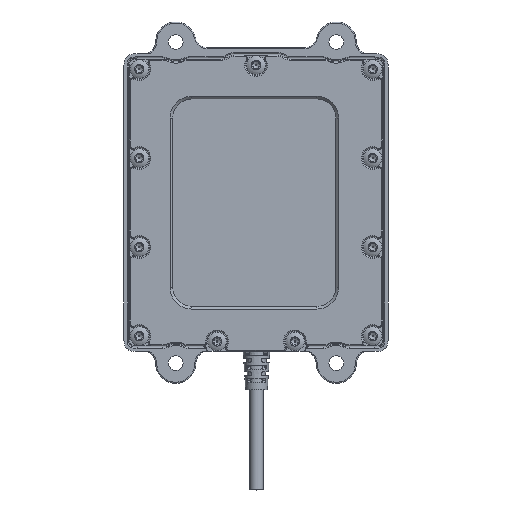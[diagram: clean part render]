
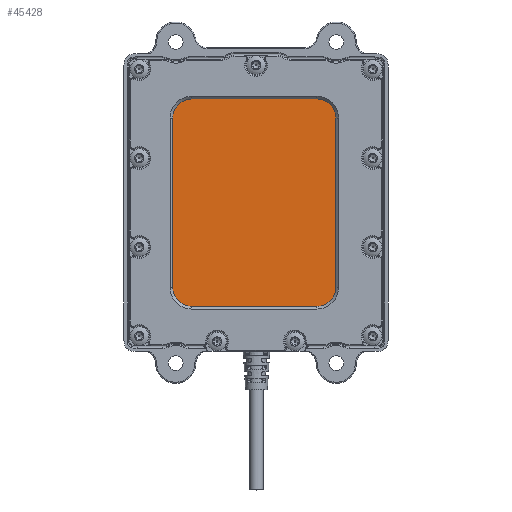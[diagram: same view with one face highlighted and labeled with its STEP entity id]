
A CAD part, top view. The second image highlights one B-rep face of the part: STEP entity #45428.
In plain terms, the highlighted planar face has unit normal (0, 0, 1).
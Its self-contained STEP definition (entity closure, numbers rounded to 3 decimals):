
#45238 = VERTEX_POINT('',#45239);
#45239 = CARTESIAN_POINT('',(18.204,-31.,-0.8));
#45245 = EDGE_CURVE('',#45246,#45238,#45248,.T.);
#45246 = VERTEX_POINT('',#45247);
#45247 = CARTESIAN_POINT('',(-19.204,-31.,-0.8));
#45248 = LINE('',#45249,#45250);
#45249 = CARTESIAN_POINT('',(18.204,-31.,-0.8));
#45250 = VECTOR('',#45251,1.);
#45251 = DIRECTION('',(1.,0.,0.));
#45268 = VERTEX_POINT('',#45269);
#45269 = CARTESIAN_POINT('',(-24.904,-25.3,-0.8));
#45275 = EDGE_CURVE('',#45268,#45246,#45276,.T.);
#45276 = CIRCLE('',#45277,5.7);
#45277 = AXIS2_PLACEMENT_3D('',#45278,#45279,#45280);
#45278 = CARTESIAN_POINT('',(-19.204,-25.3,-0.8));
#45279 = DIRECTION('',(-0.,0.,1.));
#45280 = DIRECTION('',(1.,0.,0.));
#45294 = EDGE_CURVE('',#45295,#45268,#45297,.T.);
#45295 = VERTEX_POINT('',#45296);
#45296 = CARTESIAN_POINT('',(-24.904,25.3,-0.8));
#45297 = LINE('',#45298,#45299);
#45298 = CARTESIAN_POINT('',(-24.904,-25.3,-0.8));
#45299 = VECTOR('',#45300,1.);
#45300 = DIRECTION('',(0.,-1.,0.));
#45317 = VERTEX_POINT('',#45318);
#45318 = CARTESIAN_POINT('',(-19.204,31.,-0.8));
#45324 = EDGE_CURVE('',#45317,#45295,#45325,.T.);
#45325 = CIRCLE('',#45326,5.7);
#45326 = AXIS2_PLACEMENT_3D('',#45327,#45328,#45329);
#45327 = CARTESIAN_POINT('',(-19.204,25.3,-0.8));
#45328 = DIRECTION('',(-0.,0.,1.));
#45329 = DIRECTION('',(1.,0.,0.));
#45343 = EDGE_CURVE('',#45344,#45317,#45346,.T.);
#45344 = VERTEX_POINT('',#45345);
#45345 = CARTESIAN_POINT('',(18.204,31.,-0.8));
#45346 = LINE('',#45347,#45348);
#45347 = CARTESIAN_POINT('',(18.204,31.,-0.8));
#45348 = VECTOR('',#45349,1.);
#45349 = DIRECTION('',(-1.,0.,0.));
#45366 = VERTEX_POINT('',#45367);
#45367 = CARTESIAN_POINT('',(23.904,25.3,-0.8));
#45373 = EDGE_CURVE('',#45366,#45344,#45374,.T.);
#45374 = CIRCLE('',#45375,5.7);
#45375 = AXIS2_PLACEMENT_3D('',#45376,#45377,#45378);
#45376 = CARTESIAN_POINT('',(18.204,25.3,-0.8));
#45377 = DIRECTION('',(-0.,0.,1.));
#45378 = DIRECTION('',(1.,0.,0.));
#45392 = EDGE_CURVE('',#45393,#45366,#45395,.T.);
#45393 = VERTEX_POINT('',#45394);
#45394 = CARTESIAN_POINT('',(23.904,-25.3,-0.8));
#45395 = LINE('',#45396,#45397);
#45396 = CARTESIAN_POINT('',(23.904,-25.3,-0.8));
#45397 = VECTOR('',#45398,1.);
#45398 = DIRECTION('',(0.,1.,0.));
#45415 = EDGE_CURVE('',#45238,#45393,#45416,.T.);
#45416 = CIRCLE('',#45417,5.7);
#45417 = AXIS2_PLACEMENT_3D('',#45418,#45419,#45420);
#45418 = CARTESIAN_POINT('',(18.204,-25.3,-0.8));
#45419 = DIRECTION('',(-0.,0.,1.));
#45420 = DIRECTION('',(1.,0.,0.));
#45428 = ADVANCED_FACE('',(#45429),#45439,.T.);
#45429 = FACE_BOUND('',#45430,.T.);
#45430 = EDGE_LOOP('',(#45431,#45432,#45433,#45434,#45435,#45436,#45437,
    #45438));
#45431 = ORIENTED_EDGE('',*,*,#45245,.T.);
#45432 = ORIENTED_EDGE('',*,*,#45415,.T.);
#45433 = ORIENTED_EDGE('',*,*,#45392,.T.);
#45434 = ORIENTED_EDGE('',*,*,#45373,.T.);
#45435 = ORIENTED_EDGE('',*,*,#45343,.T.);
#45436 = ORIENTED_EDGE('',*,*,#45324,.T.);
#45437 = ORIENTED_EDGE('',*,*,#45294,.T.);
#45438 = ORIENTED_EDGE('',*,*,#45275,.T.);
#45439 = PLANE('',#45440);
#45440 = AXIS2_PLACEMENT_3D('',#45441,#45442,#45443);
#45441 = CARTESIAN_POINT('',(18.204,-25.3,-0.8));
#45442 = DIRECTION('',(-0.,0.,1.));
#45443 = DIRECTION('',(1.,0.,0.));
